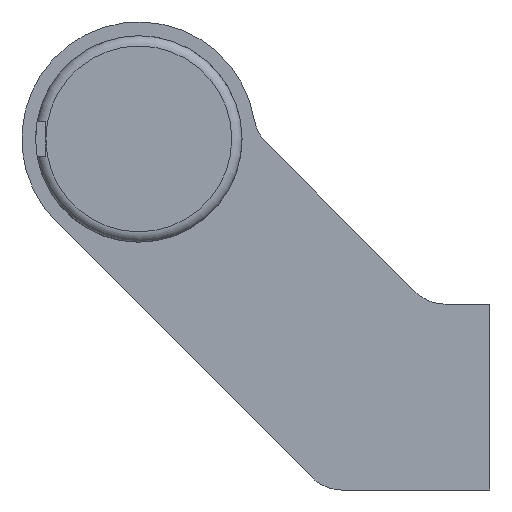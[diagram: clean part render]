
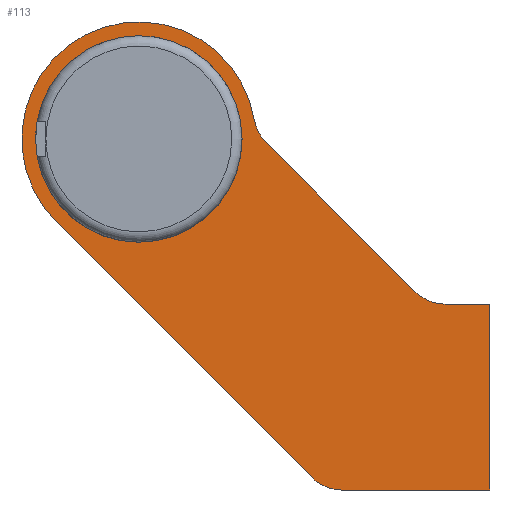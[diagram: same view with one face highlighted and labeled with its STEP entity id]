
A CAD part, left-side view. The second image highlights one B-rep face of the part: STEP entity #113.
In plain terms, the highlighted planar face has unit normal (-1, 0, 0).
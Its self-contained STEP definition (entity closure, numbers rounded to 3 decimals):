
#113 = ADVANCED_FACE( '', ( #212, #213 ), #214, .F. );
#212 = FACE_BOUND( '', #325, .T. );
#213 = FACE_OUTER_BOUND( '', #326, .T. );
#214 = PLANE( '', #327 );
#325 = EDGE_LOOP( '', ( #621 ) );
#326 = EDGE_LOOP( '', ( #622, #623, #624, #625, #626, #627, #628, #629, #630 ) );
#327 = AXIS2_PLACEMENT_3D( '', #631, #632, #633 );
#621 = ORIENTED_EDGE( '', *, *, #734, .T. );
#622 = ORIENTED_EDGE( '', *, *, #761, .F. );
#623 = ORIENTED_EDGE( '', *, *, #735, .F. );
#624 = ORIENTED_EDGE( '', *, *, #739, .F. );
#625 = ORIENTED_EDGE( '', *, *, #743, .F. );
#626 = ORIENTED_EDGE( '', *, *, #746, .F. );
#627 = ORIENTED_EDGE( '', *, *, #749, .T. );
#628 = ORIENTED_EDGE( '', *, *, #752, .F. );
#629 = ORIENTED_EDGE( '', *, *, #755, .T. );
#630 = ORIENTED_EDGE( '', *, *, #758, .F. );
#631 = CARTESIAN_POINT( '', ( -183.5, 51., 37.5 ) );
#632 = DIRECTION( '', ( 1., 0., 0. ) );
#633 = DIRECTION( '', ( 0., 0., -1. ) );
#734 = EDGE_CURVE( '', #866, #866, #867, .T. );
#735 = EDGE_CURVE( '', #868, #869, #870, .T. );
#739 = EDGE_CURVE( '', #876, #868, #877, .T. );
#743 = EDGE_CURVE( '', #883, #876, #884, .T. );
#746 = EDGE_CURVE( '', #888, #883, #889, .T. );
#749 = EDGE_CURVE( '', #888, #893, #894, .T. );
#752 = EDGE_CURVE( '', #898, #893, #899, .T. );
#755 = EDGE_CURVE( '', #898, #903, #904, .T. );
#758 = EDGE_CURVE( '', #908, #903, #909, .T. );
#761 = EDGE_CURVE( '', #869, #908, #913, .T. );
#866 = VERTEX_POINT( '', #1114 );
#867 = CIRCLE( '', #1115, 15. );
#868 = VERTEX_POINT( '', #1116 );
#869 = VERTEX_POINT( '', #1117 );
#870 = CIRCLE( '', #1118, 6. );
#876 = VERTEX_POINT( '', #1126 );
#877 = LINE( '', #1127, #1128 );
#883 = VERTEX_POINT( '', #1136 );
#884 = LINE( '', #1137, #1138 );
#888 = VERTEX_POINT( '', #1144 );
#889 = LINE( '', #1145, #1146 );
#893 = VERTEX_POINT( '', #1152 );
#894 = CIRCLE( '', #1153, 6. );
#898 = VERTEX_POINT( '', #1158 );
#899 = LINE( '', #1159, #1160 );
#903 = VERTEX_POINT( '', #1166 );
#904 = CIRCLE( '', #1167, 6. );
#908 = VERTEX_POINT( '', #1172 );
#909 = CIRCLE( '', #1173, 17. );
#913 = LINE( '', #1178, #1179 );
#1114 = CARTESIAN_POINT( '', ( -183.5, 51., 22.5 ) );
#1115 = AXIS2_PLACEMENT_3D( '', #1285, #1286, #1287 );
#1116 = CARTESIAN_POINT( '', ( -183.5, 21.556, -13.5 ) );
#1117 = CARTESIAN_POINT( '', ( -183.5, 25.799, -11.743 ) );
#1118 = AXIS2_PLACEMENT_3D( '', #1288, #1289, #1290 );
#1126 = CARTESIAN_POINT( '', ( -183.5, 0., -13.5 ) );
#1127 = CARTESIAN_POINT( '', ( -183.5, 0., -13.5 ) );
#1128 = VECTOR( '', #1296, 1000. );
#1136 = CARTESIAN_POINT( '', ( -183.5, 0., 13.5 ) );
#1137 = CARTESIAN_POINT( '', ( -183.5, 0., 13.5 ) );
#1138 = VECTOR( '', #1302, 1000. );
#1144 = CARTESIAN_POINT( '', ( -183.5, 6.515, 13.5 ) );
#1145 = CARTESIAN_POINT( '', ( -183.5, 6.515, 13.5 ) );
#1146 = VECTOR( '', #1305, 1000. );
#1152 = CARTESIAN_POINT( '', ( -183.5, 10.757, 15.257 ) );
#1153 = AXIS2_PLACEMENT_3D( '', #1308, #1309, #1310 );
#1158 = CARTESIAN_POINT( '', ( -183.5, 32.559, 37.059 ) );
#1159 = CARTESIAN_POINT( '', ( -183.5, 32.559, 37.059 ) );
#1160 = VECTOR( '', #1315, 1000. );
#1166 = CARTESIAN_POINT( '', ( -183.5, 34.234, 40.31 ) );
#1167 = AXIS2_PLACEMENT_3D( '', #1318, #1319, #1320 );
#1172 = CARTESIAN_POINT( '', ( -183.5, 63.021, 25.479 ) );
#1173 = AXIS2_PLACEMENT_3D( '', #1325, #1326, #1327 );
#1178 = CARTESIAN_POINT( '', ( -183.5, 25.799, -11.743 ) );
#1179 = VECTOR( '', #1332, 1000. );
#1285 = CARTESIAN_POINT( '', ( -183.5, 51., 37.5 ) );
#1286 = DIRECTION( '', ( 1., 0., 0. ) );
#1287 = DIRECTION( '', ( 0., 0., -1. ) );
#1288 = CARTESIAN_POINT( '', ( -183.5, 21.556, -7.5 ) );
#1289 = DIRECTION( '', ( 1., 0., 0. ) );
#1290 = DIRECTION( '', ( 0., 0., -1. ) );
#1296 = DIRECTION( '', ( 0., 1., 0. ) );
#1302 = DIRECTION( '', ( 0., 0., -1. ) );
#1305 = DIRECTION( '', ( 0., -1., 0. ) );
#1308 = CARTESIAN_POINT( '', ( -183.5, 6.515, 19.5 ) );
#1309 = DIRECTION( '', ( 1., 0., 0. ) );
#1310 = DIRECTION( '', ( 0., 0., -1. ) );
#1315 = DIRECTION( '', ( 0., -0.707, -0.707 ) );
#1318 = CARTESIAN_POINT( '', ( -183.5, 28.316, 41.302 ) );
#1319 = DIRECTION( '', ( 1., 0., 0. ) );
#1320 = DIRECTION( '', ( 0., 0., -1. ) );
#1325 = CARTESIAN_POINT( '', ( -183.5, 51., 37.5 ) );
#1326 = DIRECTION( '', ( 1., 0., 0. ) );
#1327 = DIRECTION( '', ( 0., 0., -1. ) );
#1332 = DIRECTION( '', ( 0., 0.707, 0.707 ) );
